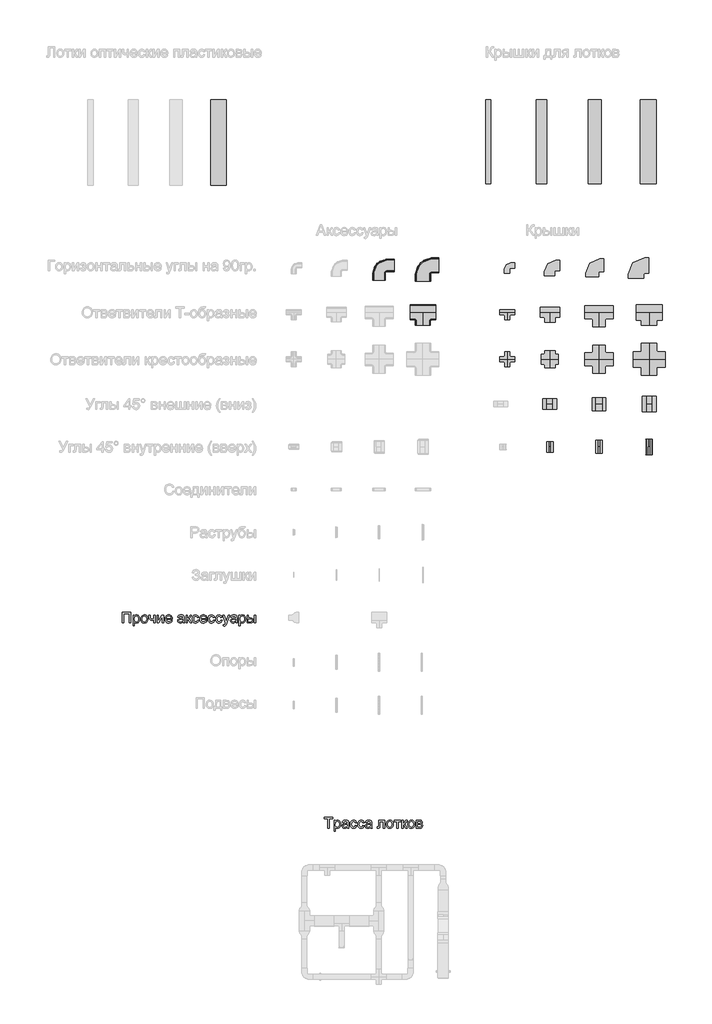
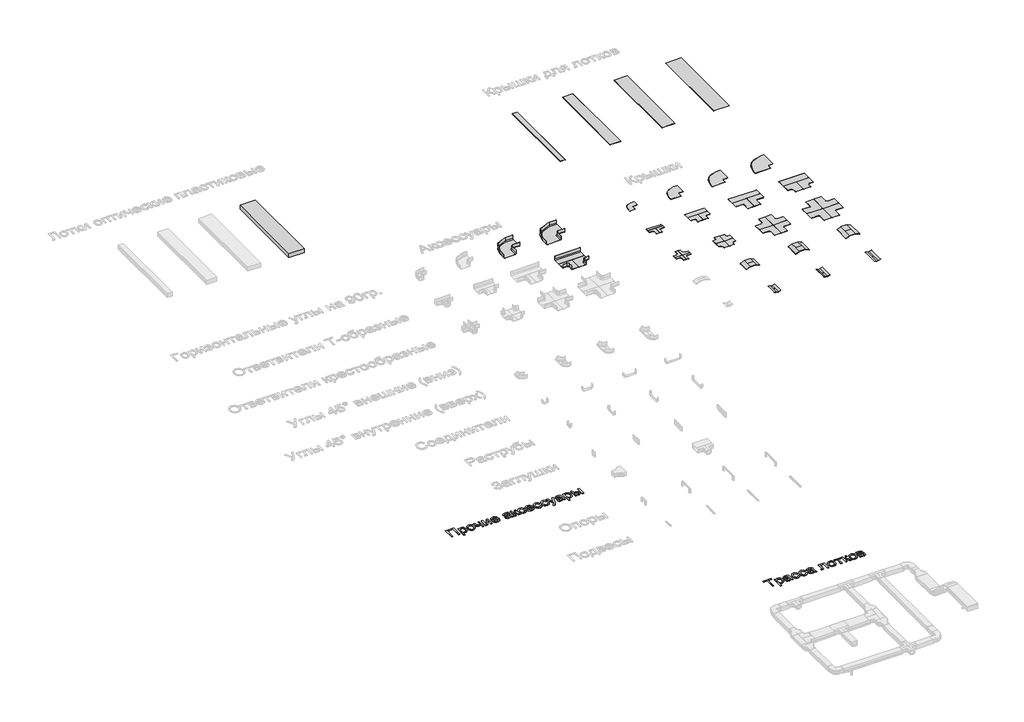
# One storey, part 2 of 11: 25 cable carrier fittings, 2 proxies, 1 cable carrier segment.
"""IFC4 building model written with IfcOpenShell, lengths in millimetres."""

from ifc_helpers import new_model, si_unit, frame, origin, origin_with_axes, place, context, project, spatial, polyline, outline, extrude, transform, mapped, element, save
from components import cable_carrier_fitting_d0117bf3, cable_carrier_fitting_022d71c2, cable_carrier_fitting_a3d14f12, cable_carrier_fitting_c29da355, cable_carrier_fitting_4c80ffbf, cable_carrier_fitting_1af7177d, cable_carrier_fitting_def6d2b1, cable_carrier_fitting_a9126de9, cable_carrier_fitting_f52470ef, cable_carrier_fitting_f0c8af3d, cable_carrier_fitting_d9fc4f65, cable_carrier_fitting_1e9d4b74, cable_carrier_fitting_ac56a8e3, cable_carrier_fitting_10d31a7a, cable_carrier_fitting_df0aac7b, cable_carrier_fitting_3fc549e6, cable_carrier_fitting_cc96bbe7, cable_carrier_fitting_1a4309ed, cable_carrier_fitting_9f67b875, cable_carrier_fitting_865a7457, cable_carrier_fitting_09b9b2bc, cable_carrier_fitting_42ad5d54, cable_carrier_fitting_a8f579ef, cable_carrier_fitting_3d7f2477, cable_carrier_fitting_4f32f718

model = new_model("IFC4")

# Units and contexts
model_context = context("Model", 3, world=origin())
ifc_project = project(units=[si_unit("LENGTHUNIT", "METRE", prefix="MILLI")], contexts=[model_context])

# Site, building, storey
site = spatial("IfcSite", under=ifc_project)
building = spatial("IfcBuilding", under=site)
storey = spatial("IfcBuildingStorey", under=building, Name="Этаж 01", Elevation=0.0)

# Proxies
placement = place(None, origin())
element("IfcBuildingElementProxy", 1, Name="АБН_Маленькая надпись", ObjectType="АБН_Маленькая надпись", at=placement, inside=storey, context=model_context, shape_type="SweptSolid", body=[
    extrude(outline(polyline([(-17729.8891826, -1217.3296674), (-17533.6854518, -1217.3296674), (-17533.6854518, -1468.4704427), (-17565.0780487, -1468.4704427), (-17565.0780487, -1248.7222643), (-17698.4965857, -1248.7222643), (-17698.4965857, -1468.4704427), (-17729.8891826, -1468.4704427), (-17729.8891826, -1217.3296674)])), origin_with_axes(), (0.0, 0.0, 1.0), 5.0),
    extrude(outline(polyline([(-17482.6724818, -1539.1037858), (-17482.6724818, -1284.0389358), (-17451.2798849, -1284.0389358), (-17451.2798849, -1314.8183961), (-17441.0405027, -1299.6355996), (-17429.5748472, -1288.7907449), (-17416.208468, -1282.2838321), (-17400.2669149, -1280.1148612), (-17379.0370581, -1283.1498877), (-17360.4743458, -1292.254967), (-17345.3605271, -1306.8782763), (-17334.4773514, -1326.4679926), (-17327.9014608, -1349.598573), (-17325.7094972, -1374.844475), (-17328.1850365, -1401.6921964), (-17335.6116542, -1425.7041608), (-17347.7517601, -1445.661759), (-17364.3677635, -1460.346382), (-17383.7198893, -1469.3824835), (-17404.0683622, -1472.3945173), (-17418.5000663, -1470.3788306), (-17431.3836003, -1464.3317703), (-17451.2798849, -1443.9449764), (-17451.2798849, -1539.1037858), (-17482.6724818, -1539.1037858)]), holes=[polyline([(-17451.2798849, -1377.7262172), (-17447.8846407, -1405.8691899), (-17437.6989079, -1425.5508766), (-17422.6693956, -1437.1391595), (-17404.7428125, -1441.0019204), (-17386.5249895, -1437.0012037), (-17371.1122668, -1424.9990536), (-17360.6046373, -1404.5969313), (-17357.1020941, -1375.3962979), (-17360.520331, -1347.4066095), (-17370.7750416, -1327.4490112), (-17385.7815613, -1315.4928464), (-17403.4552255, -1311.5074581), (-17421.1978676, -1315.7457653), (-17436.7792029, -1328.4606867), (-17447.6547144, -1349.2536837), (-17451.2798849, -1377.7262172)])]), origin_with_axes(), (0.0, 0.0, 1.0), 5.0),
    extrude(outline(polyline([(-17298.2409749, -1376.2546893), (-17296.5433528, -1352.3691843), (-17291.4504864, -1331.7869531), (-17282.9623758, -1314.5079956), (-17271.0790209, -1300.5323119), (-17245.9097611, -1285.2192239), (-17215.7740943, -1280.1148612), (-17198.4548998, -1281.6687794), (-17182.7950063, -1286.3305341), (-17168.7944139, -1294.1001252), (-17156.4531226, -1304.9775527), (-17146.3804369, -1318.5949347), (-17139.1856615, -1334.5843891), (-17134.8687962, -1352.945916), (-17133.4298411, -1373.6795153), (-17135.9743582, -1405.394009), (-17143.6079096, -1429.5362649), (-17156.1082332, -1447.6161321), (-17173.253067, -1461.1434597), (-17193.6168683, -1469.5817529), (-17215.7740943, -1472.3945173), (-17233.3462077, -1470.8463473), (-17249.1517212, -1466.2018371), (-17263.1906346, -1458.4609868), (-17275.462948, -1447.6237963), (-17285.4283348, -1433.8742068), (-17292.5464682, -1417.3961591), (-17296.8173482, -1398.1896532), (-17298.2409749, -1376.2546893)]), holes=[polyline([(-17266.848378, -1376.1933756), (-17263.2155433, -1404.6045955), (-17252.3170392, -1424.8457695), (-17235.9156336, -1436.9628827), (-17215.7740943, -1441.0019204), (-17195.7245256, -1436.9398901), (-17179.3537768, -1424.753799), (-17168.4552727, -1404.2443777), (-17164.822438, -1375.2123569), (-17168.4782653, -1347.6288715), (-17179.4457473, -1327.6636091), (-17195.8394887, -1315.5464959), (-17215.7740943, -1311.5074581), (-17235.9156336, -1315.5311674), (-17252.3170392, -1327.6022954), (-17263.2155433, -1347.7974841), (-17266.848378, -1376.1933756)])]), origin_with_axes(), (0.0, 0.0, 1.0), 5.0),
    extrude(outline(polyline([(-17109.8853934, -1284.0389358), (-17078.4927965, -1284.0389358), (-17078.4927965, -1319.416921), (-17075.9482793, -1352.5876142), (-17071.6180017, -1362.2291882), (-17063.716203, -1370.5525183), (-17052.8023705, -1376.3006745), (-17039.4359913, -1378.2167266), (-17020.2294855, -1375.840822), (-16996.0872295, -1368.7131084), (-16996.0872295, -1284.0389358), (-16964.6946326, -1284.0389358), (-16964.6946326, -1468.4704427), (-16996.0872295, -1468.4704427), (-16996.0872295, -1398.8181183), (-17022.8813015, -1406.9115222), (-17047.8359635, -1409.6093235), (-17066.8202073, -1406.7965591), (-17083.4285466, -1398.3582658), (-17096.3733943, -1385.8426138), (-17104.3671634, -1370.797773), (-17109.8853934, -1334.9292785), (-17109.8853934, -1284.0389358)])), origin_with_axes(), (0.0, 0.0, 1.0), 5.0),
    extrude(outline(polyline([(-16917.6057372, -1284.0389358), (-16886.2131403, -1284.0389358), (-16886.2131403, -1424.6924853), (-16809.0805487, -1284.0389358), (-16768.4909019, -1284.0389358), (-16768.4909019, -1468.4704427), (-16799.8834988, -1468.4704427), (-16799.8834988, -1328.6752846), (-16876.5255811, -1468.4704427), (-16917.6057372, -1468.4704427), (-16917.6057372, -1284.0389358)])), origin_with_axes(), (0.0, 0.0, 1.0), 5.0),
    extrude(outline(polyline([(-16592.2754262, -1413.5333981), (-16561.4959659, -1417.4574727), (-16572.5860752, -1440.6493668), (-16590.282732, -1457.9858059), (-16614.1873975, -1468.7923395), (-16643.9015328, -1472.3945173), (-16663.380118, -1470.8405991), (-16680.7357176, -1466.1788445), (-16695.9683314, -1458.4092534), (-16709.0779596, -1447.5318258), (-16719.6200781, -1433.8492981), (-16727.1501626, -1417.6644063), (-16731.6682134, -1398.9771506), (-16733.1742303, -1377.7875309), (-16731.652885, -1355.8793917), (-16727.088849, -1336.569419), (-16719.4821223, -1319.857613), (-16708.832705, -1305.7439735), (-16695.7575657, -1294.5312369), (-16680.8736733, -1286.5221393), (-16664.1810278, -1281.7166807), (-16645.6796291, -1280.1148612), (-16627.7741226, -1281.7128486), (-16611.5815667, -1286.5068109), (-16597.1019613, -1294.4967479), (-16584.3353064, -1305.6826599), (-16573.9138993, -1319.7656425), (-16566.470037, -1336.4467917), (-16562.0037197, -1355.7261075), (-16560.5149472, -1377.6035899), (-16560.6988882, -1386.0648758), (-16701.7816334, -1386.0648758), (-16696.3477098, -1409.5633382), (-16683.7247588, -1426.8384636), (-16665.5069358, -1437.4610562), (-16643.2883962, -1441.0019204), (-16626.5804222, -1439.3617799), (-16612.5089359, -1434.4413582), (-16601.0739372, -1425.934087), (-16592.2754262, -1413.5333981)]), holes=[polyline([(-16701.7816334, -1354.6722789), (-16591.9075442, -1354.6722789), (-16596.1535155, -1338.0869323), (-16604.4768457, -1326.2227379), (-16622.7789749, -1315.1862781), (-16645.8022565, -1311.5074581), (-16666.9631354, -1314.4428499), (-16684.4605228, -1323.2490251), (-16696.6236213, -1336.9756221), (-16701.7816334, -1354.6722789)])]), origin_with_axes(), (0.0, 0.0, 1.0), 5.0),
    extrude(outline(polyline([(-16313.2982465, -1444.925995), (-16328.297102, -1457.7865364), (-16343.7404816, -1466.2018371), (-16359.9809388, -1470.8463473), (-16377.3710273, -1472.3945173), (-16403.6056121, -1468.6697121), (-16422.9577379, -1457.4952965), (-16434.8909101, -1440.5267395), (-16438.8686342, -1419.41951), (-16437.3664494, -1406.4056845), (-16432.8598949, -1394.5874754), (-16417.071626, -1376.5612576), (-16395.0906767, -1366.2605617), (-16367.9287228, -1361.5394095), (-16313.4821875, -1350.7482043), (-16313.2982465, -1343.7584464), (-16315.4595532, -1329.7482737), (-16321.9434734, -1320.5818807), (-16336.4441553, -1313.7760638), (-16356.6470083, -1311.5074581), (-16375.3476763, -1313.0173071), (-16388.4074872, -1317.5468542), (-16397.3132971, -1325.9238338), (-16403.5519626, -1338.9759804), (-16434.9445596, -1335.0519058), (-16429.4953075, -1317.8840794), (-16421.3635826, -1304.3950729), (-16409.7906281, -1294.0790486), (-16394.0176876, -1286.4301688), (-16374.7268755, -1281.6936881), (-16352.6003063, -1280.1148612), (-16331.3781137, -1281.5097471), (-16314.5551766, -1285.6944048), (-16301.870912, -1291.9867197), (-16293.0647368, -1299.7045774), (-16283.4384912, -1321.0110763), (-16281.9056496, -1348.4795986), (-16281.9056496, -1387.5364038), (-16280.3114943, -1442.0749096), (-16274.0575003, -1468.4704427), (-16305.4500973, -1468.4704427), (-16313.2982465, -1444.925995)]), holes=[polyline([(-16313.2982465, -1382.1408012), (-16363.9433345, -1391.7670467), (-16390.9520043, -1396.856081), (-16403.1840806, -1405.1334259), (-16407.4760373, -1417.2122181), (-16405.1384537, -1426.5472237), (-16398.1257032, -1434.1961035), (-16386.5910698, -1439.3004662), (-16370.6878377, -1441.0019204), (-16353.8265796, -1439.1241894), (-16338.9273588, -1433.4909964), (-16326.8485666, -1425.1906588), (-16318.4485944, -1415.3114944), (-16314.7237892, -1405.1334259), (-16313.4821875, -1391.0312827), (-16313.2982465, -1382.1408012)])]), origin_with_axes(), (0.0, 0.0, 1.0), 5.0),
    extrude(outline(polyline([(-16238.7408288, -1284.0389358), (-16207.3482319, -1284.0389358), (-16207.3482319, -1362.5204281), (-16194.579661, -1361.1102138), (-16186.3176445, -1356.8795709), (-16169.0885044, -1324.015446), (-16154.7717634, -1295.6578755), (-16142.1411482, -1286.4301688), (-16119.1791804, -1284.0389358), (-16113.1704411, -1284.0389358), (-16113.1704411, -1315.6154737), (-16121.631727, -1315.4315327), (-16136.9601435, -1318.7424707), (-16147.7513487, -1339.4051761), (-16160.4126207, -1361.7540073), (-16178.1629269, -1372.6984966), (-16158.3586129, -1384.9152446), (-16138.9221808, -1410.6516558), (-16105.3222919, -1468.4704427), (-16141.0068454, -1468.4704427), (-16173.932284, -1411.8779291), (-16190.4869738, -1387.9349426), (-16198.2278241, -1383.5893365), (-16207.3482319, -1382.1408012), (-16207.3482319, -1468.4704427), (-16238.7408288, -1468.4704427), (-16238.7408288, -1284.0389358)])), origin_with_axes(), (0.0, 0.0, 1.0), 5.0),
    extrude(outline(polyline([(-15967.9796803, -1401.7611743), (-15936.5870834, -1405.6852489), (-15945.3396092, -1433.6059595), (-15961.7870001, -1454.7055247), (-15984.381086, -1467.9722692), (-16011.5736968, -1472.3945173), (-16029.1802991, -1470.8520954), (-16044.966652, -1466.2248297), (-16058.9327555, -1458.5127202), (-16071.0786095, -1447.7157668), (-16080.9098726, -1434.0370712), (-16087.9322034, -1417.6797348), (-16093.550068, -1376.9291396), (-16091.1511709, -1348.9931006), (-16083.9544793, -1324.7818668), (-16071.8450303, -1305.2304716), (-16054.7078607, -1291.2739484), (-16034.2061037, -1282.904633), (-16012.0028924, -1280.1148612), (-15985.4770677, -1283.9469653), (-15964.2702036, -1295.4432777), (-15949.0567502, -1313.9906616), (-15940.511158, -1338.9759804), (-15971.903755, -1342.900055), (-15977.5982617, -1329.2041149), (-15986.4657506, -1319.3862642), (-15998.0157124, -1313.4771596), (-16011.7576378, -1311.5074581), (-16032.044797, -1315.3855475), (-16048.1472985, -1327.0198156), (-16058.654928, -1347.0387275), (-16062.1574711, -1376.0707483), (-16058.73157, -1405.4936437), (-16048.4538668, -1425.5815335), (-16032.6426052, -1437.1468237), (-16012.6160291, -1441.0019204), (-15996.3602434, -1438.595359), (-15983.0321853, -1431.3756749), (-15973.3369619, -1419.158927), (-15967.9796803, -1401.7611743)])), origin_with_axes(), (0.0, 0.0, 1.0), 5.0),
    extrude(outline(polyline([(-15779.9919808, -1413.5333981), (-15749.2125205, -1417.4574727), (-15760.3026299, -1440.6493668), (-15777.9992867, -1457.9858059), (-15801.9039521, -1468.7923395), (-15831.6180875, -1472.3945173), (-15851.0966727, -1470.8405991), (-15868.4522722, -1466.1788445), (-15883.6848861, -1458.4092534), (-15896.7945143, -1447.5318258), (-15907.3366327, -1433.8492981), (-15914.8667173, -1417.6644063), (-15919.384768, -1398.9771506), (-15920.890785, -1377.7875309), (-15919.3694396, -1355.8793917), (-15914.8054036, -1336.569419), (-15907.198677, -1319.857613), (-15896.5492596, -1305.7439735), (-15883.4741204, -1294.5312369), (-15868.590228, -1286.5221393), (-15851.8975825, -1281.7166807), (-15833.3961838, -1280.1148612), (-15815.4906773, -1281.7128486), (-15799.2981214, -1286.5068109), (-15784.8185159, -1294.4967479), (-15772.0518611, -1305.6826599), (-15761.6304539, -1319.7656425), (-15754.1865917, -1336.4467917), (-15749.7202743, -1355.7261075), (-15748.2315019, -1377.6035899), (-15748.4154429, -1386.0648758), (-15889.498188, -1386.0648758), (-15884.0642644, -1409.5633382), (-15871.4413134, -1426.8384636), (-15853.2234905, -1437.4610562), (-15831.0049508, -1441.0019204), (-15814.2969769, -1439.3617799), (-15800.2254905, -1434.4413582), (-15788.7904919, -1425.934087), (-15779.9919808, -1413.5333981)]), holes=[polyline([(-15889.498188, -1354.6722789), (-15779.6240988, -1354.6722789), (-15783.8700702, -1338.0869323), (-15792.1934003, -1326.2227379), (-15810.4955296, -1315.1862781), (-15833.5188111, -1311.5074581), (-15854.67969, -1314.4428499), (-15872.1770774, -1323.2490251), (-15884.3401759, -1336.9756221), (-15889.498188, -1354.6722789)])]), origin_with_axes(), (0.0, 0.0, 1.0), 5.0),
    extrude(outline(polyline([(-15599.1166665, -1401.7611743), (-15567.7240696, -1405.6852489), (-15576.4765954, -1433.6059595), (-15592.9239863, -1454.7055247), (-15615.5180721, -1467.9722692), (-15642.7106829, -1472.3945173), (-15660.3172853, -1470.8520954), (-15676.1036382, -1466.2248297), (-15690.0697417, -1458.5127202), (-15702.2155957, -1447.7157668), (-15712.0468588, -1434.0370712), (-15719.0691896, -1417.6797348), (-15724.6870542, -1376.9291396), (-15722.288157, -1348.9931006), (-15715.0914655, -1324.7818668), (-15702.9820165, -1305.2304716), (-15685.8448469, -1291.2739484), (-15665.3430899, -1282.904633), (-15643.1398786, -1280.1148612), (-15616.6140539, -1283.9469653), (-15595.4071897, -1295.4432777), (-15580.1937364, -1313.9906616), (-15571.6481442, -1338.9759804), (-15603.0407411, -1342.900055), (-15608.7352478, -1329.2041149), (-15617.6027368, -1319.3862642), (-15629.1526986, -1313.4771596), (-15642.8946239, -1311.5074581), (-15663.1817831, -1315.3855475), (-15679.2842846, -1327.0198156), (-15689.7919141, -1347.0387275), (-15693.2944573, -1376.0707483), (-15689.8685562, -1405.4936437), (-15679.590853, -1425.5815335), (-15663.7795914, -1437.1468237), (-15643.7530153, -1441.0019204), (-15627.4972296, -1438.595359), (-15614.1691715, -1431.3756749), (-15604.4739481, -1419.158927), (-15599.1166665, -1401.7611743)])), origin_with_axes(), (0.0, 0.0, 1.0), 5.0),
    extrude(outline(polyline([(-15422.5333088, -1401.7611743), (-15391.1407119, -1405.6852489), (-15399.8932377, -1433.6059595), (-15416.3406286, -1454.7055247), (-15438.9347145, -1467.9722692), (-15466.1273253, -1472.3945173), (-15483.7339276, -1470.8520954), (-15499.5202805, -1466.2248297), (-15513.486384, -1458.5127202), (-15525.632238, -1447.7157668), (-15535.4635011, -1434.0370712), (-15542.4858319, -1417.6797348), (-15548.1036965, -1376.9291396), (-15545.7047993, -1348.9931006), (-15538.5081078, -1324.7818668), (-15526.3986588, -1305.2304716), (-15509.2614892, -1291.2739484), (-15488.7597322, -1282.904633), (-15466.5565209, -1280.1148612), (-15440.0306962, -1283.9469653), (-15418.823832, -1295.4432777), (-15403.6103787, -1313.9906616), (-15395.0647865, -1338.9759804), (-15426.4573834, -1342.900055), (-15432.1518902, -1329.2041149), (-15441.0193791, -1319.3862642), (-15452.5693409, -1313.4771596), (-15466.3112663, -1311.5074581), (-15486.5984255, -1315.3855475), (-15502.7009269, -1327.0198156), (-15513.2085564, -1347.0387275), (-15516.7110996, -1376.0707483), (-15513.2851985, -1405.4936437), (-15503.0074953, -1425.5815335), (-15487.1962337, -1437.1468237), (-15467.1696576, -1441.0019204), (-15450.9138719, -1438.595359), (-15437.5858138, -1431.3756749), (-15427.8905904, -1419.158927), (-15422.5333088, -1401.7611743)])), origin_with_axes(), (0.0, 0.0, 1.0), 5.0),
    extrude(outline(polyline([(-15363.6721896, -1539.1037858), (-15367.5962642, -1508.8761485), (-15351.6547111, -1511.6352635), (-15336.7554903, -1508.1710414), (-15327.6197541, -1498.514139), (-15319.0358409, -1475.398887), (-15316.5832942, -1467.7959924), (-15383.2925627, -1284.0389358), (-15350.1831831, -1284.0389358), (-15314.8051979, -1386.4327578), (-15302.4811511, -1427.3902866), (-15290.1571042, -1391.2152237), (-15253.7981004, -1284.0389358), (-15220.9339755, -1284.0389358), (-15285.1293836, -1472.8850267), (-15301.8067007, -1513.8425555), (-15310.3446287, -1526.9176947), (-15320.0168595, -1535.9767888), (-15331.2525888, -1541.2650925), (-15344.4810122, -1543.0278604), (-15363.6721896, -1539.1037858)])), origin_with_axes(), (0.0, 0.0, 1.0), 5.0),
    extrude(outline(polyline([(-15077.2147427, -1444.925995), (-15092.2135982, -1457.7865364), (-15107.6569778, -1466.2018371), (-15123.897435, -1470.8463473), (-15141.2875235, -1472.3945173), (-15167.5221083, -1468.6697121), (-15186.8742341, -1457.4952965), (-15198.8074063, -1440.5267395), (-15202.7851304, -1419.41951), (-15201.2829456, -1406.4056845), (-15196.7763911, -1394.5874754), (-15180.9881222, -1376.5612576), (-15159.007173, -1366.2605617), (-15131.845219, -1361.5394095), (-15077.3986837, -1350.7482043), (-15077.2147427, -1343.7584464), (-15079.3760494, -1329.7482737), (-15085.8599696, -1320.5818807), (-15100.3606516, -1313.7760638), (-15120.5635045, -1311.5074581), (-15139.2641725, -1313.0173071), (-15152.3239834, -1317.5468542), (-15161.2297933, -1325.9238338), (-15167.4684588, -1338.9759804), (-15198.8610558, -1335.0519058), (-15193.4118037, -1317.8840794), (-15185.2800788, -1304.3950729), (-15173.7071243, -1294.0790486), (-15157.9341838, -1286.4301688), (-15138.6433717, -1281.6936881), (-15116.5168025, -1280.1148612), (-15095.2946099, -1281.5097471), (-15078.4716728, -1285.6944048), (-15065.7874082, -1291.9867197), (-15056.981233, -1299.7045774), (-15047.3549874, -1321.0110763), (-15045.8221458, -1348.4795986), (-15045.8221458, -1387.5364038), (-15044.2279905, -1442.0749096), (-15037.9739965, -1468.4704427), (-15069.3665935, -1468.4704427), (-15077.2147427, -1444.925995)]), holes=[polyline([(-15077.2147427, -1382.1408012), (-15127.8598307, -1391.7670467), (-15154.8685005, -1396.856081), (-15167.1005768, -1405.1334259), (-15171.3925335, -1417.2122181), (-15169.0549499, -1426.5472237), (-15162.0421994, -1434.1961035), (-15150.507566, -1439.3004662), (-15134.6043339, -1441.0019204), (-15117.7430758, -1439.1241894), (-15102.843855, -1433.4909964), (-15090.7650628, -1425.1906588), (-15082.3650906, -1415.3114944), (-15078.6402854, -1405.1334259), (-15077.3986837, -1391.0312827), (-15077.2147427, -1382.1408012)])]), origin_with_axes(), (0.0, 0.0, 1.0), 5.0),
    extrude(outline(polyline([(-15002.657325, -1539.1037858), (-15002.657325, -1284.0389358), (-14971.2647281, -1284.0389358), (-14971.2647281, -1314.8183961), (-14961.0253459, -1299.6355996), (-14949.5596904, -1288.7907449), (-14936.1933112, -1282.2838321), (-14920.2517581, -1280.1148612), (-14899.0219013, -1283.1498877), (-14880.4591889, -1292.254967), (-14865.3453703, -1306.8782763), (-14854.4621946, -1326.4679926), (-14847.8863039, -1349.598573), (-14845.6943404, -1374.844475), (-14848.1698797, -1401.6921964), (-14855.5964974, -1425.7041608), (-14867.7366033, -1445.661759), (-14884.3526067, -1460.346382), (-14903.7047325, -1469.3824835), (-14924.0532054, -1472.3945173), (-14938.4849095, -1470.3788306), (-14951.3684435, -1464.3317703), (-14971.2647281, -1443.9449764), (-14971.2647281, -1539.1037858), (-15002.657325, -1539.1037858)]), holes=[polyline([(-14971.2647281, -1377.7262172), (-14967.8694838, -1405.8691899), (-14957.6837511, -1425.5508766), (-14942.6542387, -1437.1391595), (-14924.7276557, -1441.0019204), (-14906.5098327, -1437.0012037), (-14891.09711, -1424.9990536), (-14880.5894805, -1404.5969313), (-14877.0869373, -1375.3962979), (-14880.5051742, -1347.4066095), (-14890.7598848, -1327.4490112), (-14905.7664045, -1315.4928464), (-14923.4400687, -1311.5074581), (-14941.1827108, -1315.7457653), (-14956.7640461, -1328.4606867), (-14967.6395576, -1349.2536837), (-14971.2647281, -1377.7262172)])]), origin_with_axes(), (0.0, 0.0, 1.0), 5.0),
    extrude(outline(polyline([(-14637.7183858, -1284.0389358), (-14606.3257889, -1284.0389358), (-14606.3257889, -1468.4704427), (-14637.7183858, -1468.4704427), (-14637.7183858, -1284.0389358)])), origin_with_axes(), (0.0, 0.0, 1.0), 5.0),
    extrude(outline(polyline([(-14810.3776689, -1284.0389358), (-14778.9850719, -1284.0389358), (-14778.9850719, -1350.7482043), (-14740.1735214, -1350.7482043), (-14706.627282, -1354.6799431), (-14681.7722547, -1366.4751596), (-14666.3901888, -1385.1834919), (-14661.2628335, -1409.8545782), (-14665.5624543, -1432.3183725), (-14678.4613168, -1451.2719595), (-14700.8024838, -1464.1708219), (-14733.4290182, -1468.4704427), (-14810.3776689, -1468.4704427), (-14810.3776689, -1284.0389358)]), holes=[polyline([(-14778.9850719, -1437.0778458), (-14746.7340837, -1437.0778458), (-14721.7334364, -1435.430041), (-14705.1021046, -1430.4866267), (-14695.7670989, -1422.0483335), (-14692.6554304, -1409.9158918), (-14694.9623571, -1399.6611812), (-14701.8831371, -1390.6020871), (-14716.6827232, -1384.2561227), (-14742.6260681, -1382.1408012), (-14778.9850719, -1382.1408012), (-14778.9850719, -1437.0778458)])]), origin_with_axes(), (0.0, 0.0, 1.0), 5.0),
])
element("IfcBuildingElementProxy", 2, Name="АБН_Маленькая надпись", ObjectType="АБН_Маленькая надпись", at=placement, inside=storey, context=model_context, shape_type="SweptSolid", body=[
    extrude(outline(polyline([(-12919.9195003, -6276.2110904), (-12919.9195003, -6056.462912), (-13002.3250672, -6056.462912), (-13002.3250672, -6025.0703151), (-12806.1213364, -6025.0703151), (-12806.1213364, -6056.462912), (-12888.5269034, -6056.462912), (-12888.5269034, -6276.2110904), (-12919.9195003, -6276.2110904)])), origin_with_axes(), (0.0, 0.0, 1.0), 5.0),
    extrude(outline(polyline([(-12774.7287395, -6346.8444335), (-12774.7287395, -6091.7795835), (-12743.3361426, -6091.7795835), (-12743.3361426, -6122.5590438), (-12733.0967604, -6107.3762473), (-12721.6311049, -6096.5313926), (-12708.2647257, -6090.0244798), (-12692.3231726, -6087.8555089), (-12671.0933158, -6090.8905354), (-12652.5306034, -6099.9956147), (-12637.4167848, -6114.6189241), (-12626.5336091, -6134.2086403), (-12619.9577185, -6157.3392207), (-12617.7657549, -6182.5851227), (-12620.2412942, -6209.4328441), (-12627.6679119, -6233.4448085), (-12639.8080178, -6253.4024067), (-12656.4240212, -6268.0870297), (-12675.776147, -6277.1231312), (-12696.1246199, -6280.1351651), (-12710.556324, -6278.1194783), (-12723.439858, -6272.072418), (-12743.3361426, -6251.6856241), (-12743.3361426, -6346.8444335), (-12774.7287395, -6346.8444335)]), holes=[polyline([(-12743.3361426, -6185.466865), (-12739.9408983, -6213.6098376), (-12729.7551656, -6233.2915243), (-12714.7256533, -6244.8798072), (-12696.7990702, -6248.7425681), (-12678.5812472, -6244.7418514), (-12663.1685245, -6232.7397013), (-12652.660895, -6212.337579), (-12649.1583518, -6183.1369457), (-12652.5765887, -6155.1472572), (-12662.8312993, -6135.189659), (-12677.837819, -6123.2334941), (-12695.5114832, -6119.2481058), (-12713.2541253, -6123.486413), (-12728.8354606, -6136.2013344), (-12739.7109721, -6156.9943314), (-12743.3361426, -6185.466865)])]), origin_with_axes(), (0.0, 0.0, 1.0), 5.0),
    extrude(outline(polyline([(-12464.7268449, -6252.6666427), (-12479.7257004, -6265.5271842), (-12495.16908, -6273.9424848), (-12511.4095373, -6278.586995), (-12528.7996257, -6280.1351651), (-12555.0342105, -6276.4103599), (-12574.3863363, -6265.2359442), (-12586.3195085, -6248.2673872), (-12590.2972326, -6227.1601577), (-12588.7950478, -6214.1463322), (-12584.2884933, -6202.3281231), (-12568.5002244, -6184.3019053), (-12546.5192752, -6174.0012094), (-12519.3573212, -6169.2800572), (-12464.9107859, -6158.488852), (-12464.7268449, -6151.4990941), (-12466.8881516, -6137.4889214), (-12473.3720718, -6128.3225284), (-12487.8727538, -6121.5167115), (-12508.0756067, -6119.2481058), (-12526.7762748, -6120.7579548), (-12539.8360856, -6125.2875019), (-12548.7418956, -6133.6644815), (-12554.9805611, -6146.7166281), (-12586.373158, -6142.7925535), (-12580.9239059, -6125.6247271), (-12572.792181, -6112.1357206), (-12561.2192266, -6101.8196963), (-12545.446286, -6094.1708165), (-12526.1554739, -6089.4343358), (-12504.0289047, -6087.8555089), (-12482.8067121, -6089.2503948), (-12465.9837751, -6093.4350525), (-12453.2995104, -6099.7273675), (-12444.4933352, -6107.4452251), (-12434.8670896, -6128.751724), (-12433.334248, -6156.2202463), (-12433.334248, -6195.2770515), (-12431.7400927, -6249.8155573), (-12425.4860988, -6276.2110904), (-12456.8786957, -6276.2110904), (-12464.7268449, -6252.6666427)]), holes=[polyline([(-12464.7268449, -6189.8814489), (-12515.3719329, -6199.5076944), (-12542.3806027, -6204.5967287), (-12554.6126791, -6212.8740736), (-12558.9046357, -6224.9528658), (-12556.5670522, -6234.2878714), (-12549.5543016, -6241.9367512), (-12538.0196682, -6247.0411139), (-12522.1164362, -6248.7425681), (-12505.255178, -6246.8648371), (-12490.3559572, -6241.2316441), (-12478.2771651, -6232.9313065), (-12469.8771928, -6223.0521421), (-12466.1523876, -6212.8740736), (-12464.9107859, -6198.7719305), (-12464.7268449, -6189.8814489)])]), origin_with_axes(), (0.0, 0.0, 1.0), 5.0),
    extrude(outline(polyline([(-12272.4471888, -6209.501822), (-12241.0545918, -6213.4258966), (-12249.8071176, -6241.3466072), (-12266.2545085, -6262.4461725), (-12288.8485944, -6275.7129169), (-12316.0412052, -6280.1351651), (-12333.6478076, -6278.5927431), (-12349.4341605, -6273.9654774), (-12363.4002639, -6266.2533679), (-12375.5461179, -6255.4564145), (-12385.377381, -6241.7777189), (-12392.3997118, -6225.4203825), (-12398.0175764, -6184.6697873), (-12395.6186793, -6156.7337483), (-12388.4219877, -6132.5225145), (-12376.3125387, -6112.9711193), (-12359.1753691, -6099.0145961), (-12338.6736121, -6090.6452807), (-12316.4704009, -6087.8555089), (-12289.9445762, -6091.687613), (-12268.737712, -6103.1839254), (-12253.5242586, -6121.7313093), (-12244.9786665, -6146.7166281), (-12276.3712634, -6150.6407027), (-12282.0657701, -6136.9447626), (-12290.933259, -6127.1269119), (-12302.4832208, -6121.2178073), (-12316.2251462, -6119.2481058), (-12336.5123054, -6123.1261952), (-12352.6148069, -6134.7604633), (-12363.1224364, -6154.7793752), (-12366.6249795, -6183.811396), (-12363.1990784, -6213.2342914), (-12352.9213752, -6233.3221812), (-12337.1101136, -6244.8874714), (-12317.0835375, -6248.7425681), (-12300.8277518, -6246.3360067), (-12287.4996937, -6239.1163226), (-12277.8044703, -6226.8995747), (-12272.4471888, -6209.501822)])), origin_with_axes(), (0.0, 0.0, 1.0), 5.0),
    extrude(outline(polyline([(-12095.8638311, -6209.501822), (-12064.4712342, -6213.4258966), (-12073.22376, -6241.3466072), (-12089.6711508, -6262.4461725), (-12112.2652367, -6275.7129169), (-12139.4578475, -6280.1351651), (-12157.0644499, -6278.5927431), (-12172.8508028, -6273.9654774), (-12186.8169062, -6266.2533679), (-12198.9627602, -6255.4564145), (-12208.7940233, -6241.7777189), (-12215.8163541, -6225.4203825), (-12221.4342188, -6184.6697873), (-12219.0353216, -6156.7337483), (-12211.8386301, -6132.5225145), (-12199.729181, -6112.9711193), (-12182.5920114, -6099.0145961), (-12162.0902544, -6090.6452807), (-12139.8870432, -6087.8555089), (-12113.3612185, -6091.687613), (-12092.1543543, -6103.1839254), (-12076.940901, -6121.7313093), (-12068.3953088, -6146.7166281), (-12099.7879057, -6150.6407027), (-12105.4824124, -6136.9447626), (-12114.3499013, -6127.1269119), (-12125.8998631, -6121.2178073), (-12139.6417885, -6119.2481058), (-12159.9289477, -6123.1261952), (-12176.0314492, -6134.7604633), (-12186.5390787, -6154.7793752), (-12190.0416218, -6183.811396), (-12186.6157208, -6213.2342914), (-12176.3380175, -6233.3221812), (-12160.5267559, -6244.8874714), (-12140.5001798, -6248.7425681), (-12124.2443942, -6246.3360067), (-12110.916336, -6239.1163226), (-12101.2211126, -6226.8995747), (-12095.8638311, -6209.501822)])), origin_with_axes(), (0.0, 0.0, 1.0), 5.0),
    extrude(outline(polyline([(-11919.2804734, -6252.6666427), (-11934.2793289, -6265.5271842), (-11949.7227085, -6273.9424848), (-11965.9631657, -6278.586995), (-11983.3532542, -6280.1351651), (-12009.587839, -6276.4103599), (-12028.9399648, -6265.2359442), (-12040.873137, -6248.2673872), (-12044.8508611, -6227.1601577), (-12043.3486763, -6214.1463322), (-12038.8421218, -6202.3281231), (-12023.0538529, -6184.3019053), (-12001.0729037, -6174.0012094), (-11973.9109497, -6169.2800572), (-11919.4644144, -6158.488852), (-11919.2804734, -6151.4990941), (-11921.4417801, -6137.4889214), (-11927.9257003, -6128.3225284), (-11942.4263823, -6121.5167115), (-11962.6292352, -6119.2481058), (-11981.3299032, -6120.7579548), (-11994.3897141, -6125.2875019), (-12003.295524, -6133.6644815), (-12009.5341895, -6146.7166281), (-12040.9267865, -6142.7925535), (-12035.4775344, -6125.6247271), (-12027.3458095, -6112.1357206), (-12015.772855, -6101.8196963), (-11999.9999145, -6094.1708165), (-11980.7091024, -6089.4343358), (-11958.5825332, -6087.8555089), (-11937.3603406, -6089.2503948), (-11920.5374035, -6093.4350525), (-11907.8531389, -6099.7273675), (-11899.0469637, -6107.4452251), (-11889.4207181, -6128.751724), (-11887.8878765, -6156.2202463), (-11887.8878765, -6195.2770515), (-11886.2937212, -6249.8155573), (-11880.0397272, -6276.2110904), (-11911.4323242, -6276.2110904), (-11919.2804734, -6252.6666427)]), holes=[polyline([(-11919.2804734, -6189.8814489), (-11969.9255614, -6199.5076944), (-11996.9342312, -6204.5967287), (-12009.1663075, -6212.8740736), (-12013.4582642, -6224.9528658), (-12011.1206806, -6234.2878714), (-12004.1079301, -6241.9367512), (-11992.5732967, -6247.0411139), (-11976.6700646, -6248.7425681), (-11959.8088065, -6246.8648371), (-11944.9095857, -6241.2316441), (-11932.8307935, -6232.9313065), (-11924.4308213, -6223.0521421), (-11920.7060161, -6212.8740736), (-11919.4644144, -6198.7719305), (-11919.2804734, -6189.8814489)])]), origin_with_axes(), (0.0, 0.0, 1.0), 5.0),
    extrude(outline(polyline([(-11730.9248919, -6091.7795835), (-11589.6582057, -6091.7795835), (-11589.6582057, -6276.0271494), (-11621.0508026, -6276.0271494), (-11621.0508026, -6123.1721804), (-11699.5322949, -6123.1721804), (-11699.5322949, -6211.157291), (-11701.6476164, -6251.7469378), (-11705.6100121, -6260.9363234), (-11713.2665561, -6268.8841074), (-11724.8854958, -6274.3793447), (-11740.7350784, -6276.2110904), (-11766.2415634, -6274.6169351), (-11766.2415634, -6244.8184935), (-11752.2007339, -6244.8184935), (-11738.0066203, -6242.887113), (-11732.3351062, -6236.7557465), (-11730.9248919, -6209.3791946), (-11730.9248919, -6091.7795835)])), origin_with_axes(), (0.0, 0.0, 1.0), 5.0),
    extrude(outline(polyline([(-11550.4174596, -6183.995337), (-11548.7198374, -6160.109832), (-11543.6269711, -6139.5276008), (-11535.1388604, -6122.2486434), (-11523.2555056, -6108.2729596), (-11498.0862457, -6092.9598716), (-11467.950579, -6087.8555089), (-11450.6313844, -6089.4094271), (-11434.971491, -6094.0711818), (-11420.9708986, -6101.8407729), (-11408.6296073, -6112.7182004), (-11398.5569216, -6126.3355824), (-11391.3621461, -6142.3250368), (-11387.0452808, -6160.6865637), (-11385.6063257, -6181.420163), (-11388.1508429, -6213.1346567), (-11395.7843943, -6237.2769126), (-11408.2847179, -6255.3567798), (-11425.4295517, -6268.8841074), (-11445.793353, -6277.3224006), (-11467.950579, -6280.1351651), (-11485.5226924, -6278.586995), (-11501.3282058, -6273.9424848), (-11515.3671193, -6266.2016345), (-11527.6394327, -6255.364444), (-11537.6048194, -6241.6148545), (-11544.7229528, -6225.1368068), (-11548.9938329, -6205.9303009), (-11550.4174596, -6183.995337)]), holes=[polyline([(-11519.0248626, -6183.9340233), (-11515.3920279, -6212.3452432), (-11504.4935238, -6232.5864172), (-11488.0921182, -6244.7035304), (-11467.950579, -6248.7425681), (-11447.9010102, -6244.6805378), (-11431.5302615, -6232.4944467), (-11420.6317573, -6211.9850254), (-11416.9989226, -6182.9530047), (-11420.65475, -6155.3695192), (-11431.622232, -6135.4042568), (-11448.0159734, -6123.2871436), (-11467.950579, -6119.2481058), (-11488.0921182, -6123.2718151), (-11504.4935238, -6135.3429431), (-11515.3920279, -6155.5381318), (-11519.0248626, -6183.9340233)])]), origin_with_axes(), (0.0, 0.0, 1.0), 5.0),
    extrude(outline(polyline([(-11365.9859526, -6091.7795835), (-11216.8711173, -6091.7795835), (-11216.8711173, -6123.1721804), (-11275.7322365, -6123.1721804), (-11275.7322365, -6276.2110904), (-11307.1248334, -6276.2110904), (-11307.1248334, -6123.1721804), (-11365.9859526, -6123.1721804), (-11365.9859526, -6091.7795835)])), origin_with_axes(), (0.0, 0.0, 1.0), 5.0),
    extrude(outline(polyline([(-11189.402595, -6091.7795835), (-11158.009998, -6091.7795835), (-11158.009998, -6170.2610758), (-11145.2414271, -6168.8508615), (-11136.9794106, -6164.6202186), (-11119.7502705, -6131.7560937), (-11105.4335296, -6103.3985232), (-11092.8029144, -6094.1708165), (-11069.8409465, -6091.7795835), (-11063.8322073, -6091.7795835), (-11063.8322073, -6123.3561214), (-11072.2934932, -6123.1721804), (-11087.6219096, -6126.4831184), (-11098.4131148, -6147.1458238), (-11111.0743868, -6169.494655), (-11128.8246931, -6180.4391444), (-11109.020379, -6192.6558923), (-11089.5839469, -6218.3923035), (-11055.984058, -6276.2110904), (-11091.6686116, -6276.2110904), (-11124.5940501, -6219.6185768), (-11141.1487399, -6195.6755903), (-11148.8895902, -6191.3299843), (-11158.009998, -6189.8814489), (-11158.009998, -6276.2110904), (-11189.402595, -6276.2110904), (-11189.402595, -6091.7795835)])), origin_with_axes(), (0.0, 0.0, 1.0), 5.0),
    extrude(outline(polyline([(-11044.2118342, -6183.995337), (-11042.5142121, -6160.109832), (-11037.4213457, -6139.5276008), (-11028.9332351, -6122.2486434), (-11017.0498802, -6108.2729596), (-10991.8806204, -6092.9598716), (-10961.7449536, -6087.8555089), (-10944.4257591, -6089.4094271), (-10928.7658656, -6094.0711818), (-10914.7652732, -6101.8407729), (-10902.4239819, -6112.7182004), (-10892.3512962, -6126.3355824), (-10885.1565207, -6142.3250368), (-10880.8396555, -6160.6865637), (-10879.4007004, -6181.420163), (-10881.9452175, -6213.1346567), (-10889.5787689, -6237.2769126), (-10902.0790925, -6255.3567798), (-10919.2239263, -6268.8841074), (-10939.5877276, -6277.3224006), (-10961.7449536, -6280.1351651), (-10979.317067, -6278.586995), (-10995.1225805, -6273.9424848), (-11009.1614939, -6266.2016345), (-11021.4338073, -6255.364444), (-11031.3991941, -6241.6148545), (-11038.5173275, -6225.1368068), (-11042.7882075, -6205.9303009), (-11044.2118342, -6183.995337)]), holes=[polyline([(-11012.8192373, -6183.9340233), (-11009.1864026, -6212.3452432), (-10998.2878985, -6232.5864172), (-10981.8864928, -6244.7035304), (-10961.7449536, -6248.7425681), (-10941.6953849, -6244.6805378), (-10925.3246361, -6232.4944467), (-10914.426132, -6211.9850254), (-10910.7932973, -6182.9530047), (-10914.4491246, -6155.3695192), (-10925.4166066, -6135.4042568), (-10941.810348, -6123.2871436), (-10961.7449536, -6119.2481058), (-10981.8864928, -6123.2718151), (-10998.2878985, -6135.3429431), (-11009.1864026, -6155.5381318), (-11012.8192373, -6183.9340233)])]), origin_with_axes(), (0.0, 0.0, 1.0), 5.0),
    extrude(outline(polyline([(-10844.0840288, -6091.7795835), (-10774.9222137, -6091.7795835), (-10736.9997114, -6095.9795696), (-10725.4574138, -6101.9269952), (-10715.6625557, -6111.3692998), (-10708.9717019, -6123.670354), (-10706.7414173, -6138.1940286), (-10712.1370199, -6159.9910368), (-10728.3851413, -6175.5340511), (-10716.7662017, -6182.0562923), (-10707.2932403, -6192.5485934), (-10700.9932611, -6206.1832198), (-10698.8932681, -6222.1324371), (-10704.2122286, -6246.0600952), (-10716.8581722, -6262.9060249), (-10736.8770841, -6272.8848241), (-10764.3149495, -6276.2110904), (-10844.0840288, -6276.2110904), (-10844.0840288, -6091.7795835)]), holes=[polyline([(-10812.6914319, -6162.4129266), (-10781.666717, -6162.4129266), (-10756.0682615, -6160.8187713), (-10743.6215873, -6154.44215), (-10738.1340142, -6142.9151809), (-10740.5405756, -6133.5495184), (-10747.7602598, -6127.5254507), (-10780.6856983, -6123.1721804), (-10812.6914319, -6123.1721804), (-10812.6914319, -6162.4129266)]), polyline([(-10812.6914319, -6244.8184935), (-10774.1864497, -6244.8184935), (-10753.2018476, -6243.400615), (-10740.0347379, -6239.1469794), (-10732.9683379, -6231.4137933), (-10730.285865, -6219.5572632), (-10735.6508107, -6204.4434445), (-10749.6303266, -6195.6449335), (-10777.252133, -6193.8055235), (-10812.6914319, -6193.8055235), (-10812.6914319, -6244.8184935)])]), origin_with_axes(), (0.0, 0.0, 1.0), 5.0),
])

# Cable carrier fittings
cable_carrier_fitting_shape = cable_carrier_fitting_d0117bf3(model_context)
element("IfcCableCarrierFitting", 3, ObjectType="CCT_Hyperline_FBTR-ELB90-CVR_Крышка на горизонтальный изгиб на 90°пластиковый : Крышка на горизонтальный изгиб на 90° пластиковый", at=placement, inside=storey, context=model_context, shape_type="MappedRepresentation", body=[
    mapped(cable_carrier_fitting_shape, transform((-8558.645887, 6816.2544831, 0.0), x_axis=(0.0, 1.0, 0.0), y_axis=(-1.0, 0.0, 0.0), z_axis=(0.0, 0.0, 1.0))),
])
cable_carrier_fitting_2_shape = cable_carrier_fitting_022d71c2(model_context)
element("IfcCableCarrierFitting", 4, ObjectType="CCT_Hyperline_FBTR-ELB90-CVR_Крышка на горизонтальный изгиб на 90°пластиковый : Крышка на горизонтальный изгиб на 90° пластиковый", at=placement, inside=storey, context=model_context, shape_type="MappedRepresentation", body=[
    mapped(cable_carrier_fitting_2_shape, transform((-7567.6934482, 6816.2544831, 0.0), x_axis=(0.0, 1.0, 0.0), y_axis=(-1.0, 0.0, 0.0), z_axis=(0.0, 0.0, 1.0))),
])
cable_carrier_fitting_3_shape = cable_carrier_fitting_a3d14f12(model_context)
element("IfcCableCarrierFitting", 5, ObjectType="CCT_Hyperline_FBTR-ELB90-CVR_Крышка на горизонтальный изгиб на 90°пластиковый : Крышка на горизонтальный изгиб на 90° пластиковый", at=placement, inside=storey, context=model_context, shape_type="MappedRepresentation", body=[
    mapped(cable_carrier_fitting_3_shape, transform((-6567.6934482, 6816.2544831, 0.0), x_axis=(0.0, 1.0, 0.0), y_axis=(-1.0, 0.0, 0.0), z_axis=(0.0, 0.0, 1.0))),
])
cable_carrier_fitting_4_shape = cable_carrier_fitting_c29da355(model_context)
element("IfcCableCarrierFitting", 6, ObjectType="CCT_Hyperline_FBTR-ELB90-CVR_Крышка на горизонтальный изгиб на 90°пластиковый : Крышка на горизонтальный изгиб на 90° пластиковый", at=placement, inside=storey, context=model_context, shape_type="MappedRepresentation", body=[
    mapped(cable_carrier_fitting_4_shape, transform((-5542.0217692, 6816.2544831, 0.0), x_axis=(0.0, 1.0, 0.0), y_axis=(-1.0, 0.0, 0.0), z_axis=(0.0, 0.0, 1.0))),
])
cable_carrier_fitting_5_shape = cable_carrier_fitting_4c80ffbf(model_context)
element("IfcCableCarrierFitting", 7, ObjectType="CCT_Hyperline_FBTR-CRS-CVR_Крышка на ответвитель крестообразный пластиковый : Крышка на ответвитель крестообразный пластиковый", at=placement, inside=storey, context=model_context, shape_type="MappedRepresentation", body=[
    mapped(cable_carrier_fitting_5_shape, transform((-8717.6934482, 4706.5295573, 100.0), x_axis=(-1.0, 0.0, 0.0), y_axis=(0.0, -1.0, 0.0), z_axis=(0.0, 0.0, 1.0))),
])
cable_carrier_fitting_6_shape = cable_carrier_fitting_1af7177d(model_context)
element("IfcCableCarrierFitting", 8, ObjectType="CCT_Hyperline_FBTR-CRS-CVR_Крышка на ответвитель крестообразный пластиковый : Крышка на ответвитель крестообразный пластиковый", at=placement, inside=storey, context=model_context, shape_type="MappedRepresentation", body=[
    mapped(cable_carrier_fitting_6_shape, transform((-7717.6934482, 4706.5295573, 100.0), x_axis=(-1.0, 0.0, 0.0), y_axis=(0.0, -1.0, 0.0), z_axis=(0.0, 0.0, 1.0))),
])
cable_carrier_fitting_7_shape = cable_carrier_fitting_def6d2b1(model_context)
element("IfcCableCarrierFitting", 9, ObjectType="CCT_Hyperline_FBTR-CRS-CVR_Крышка на ответвитель крестообразный пластиковый : Крышка на ответвитель крестообразный пластиковый", at=placement, inside=storey, context=model_context, shape_type="MappedRepresentation", body=[
    mapped(cable_carrier_fitting_7_shape, transform((-6567.6934482, 4706.5295573, 100.0), x_axis=(-1.0, 0.0, 0.0), y_axis=(0.0, -1.0, 0.0), z_axis=(0.0, 0.0, 1.0))),
])
cable_carrier_fitting_8_shape = cable_carrier_fitting_a9126de9(model_context)
element("IfcCableCarrierFitting", 10, ObjectType="CCT_Hyperline_FBTR-CRS-CVR_Крышка на ответвитель крестообразный пластиковый : Крышка на ответвитель крестообразный пластиковый", at=placement, inside=storey, context=model_context, shape_type="MappedRepresentation", body=[
    mapped(cable_carrier_fitting_8_shape, transform((-5392.0217692, 4706.5295573, 100.0), x_axis=(-1.0, 0.0, 0.0), y_axis=(0.0, -1.0, 0.0), z_axis=(0.0, 0.0, 1.0))),
])
cable_carrier_fitting_9_shape = cable_carrier_fitting_f52470ef(model_context)
element("IfcCableCarrierFitting", 11, ObjectType="CCT_Hyperline_FBTR-ERS45-CVR Крышка на угол 45° внешний (вниз) для оптического лотка : Крышка на угол 45° внешний (вниз) для оптического лотка", at=placement, inside=storey, context=model_context, shape_type="MappedRepresentation", body=[
    mapped(cable_carrier_fitting_9_shape, transform((-7705.9617915, 3656.5295573, 100.0), x_axis=(0.0, 0.0, 1.0), y_axis=(1.0, 0.0, 0.0), z_axis=(0.0, 1.0, 0.0))),
])
cable_carrier_fitting_10_shape = cable_carrier_fitting_f0c8af3d(model_context)
element("IfcCableCarrierFitting", 12, ObjectType="CCT_Hyperline_FBTR-ERS45-CVR Крышка на угол 45° внешний (вниз) для оптического лотка : Крышка на угол 45° внешний (вниз) для оптического лотка", at=placement, inside=storey, context=model_context, shape_type="MappedRepresentation", body=[
    mapped(cable_carrier_fitting_10_shape, transform((-6555.9617915, 3656.5295573, 100.0), x_axis=(0.0, 0.0, 1.0), y_axis=(1.0, 0.0, 0.0), z_axis=(0.0, 1.0, 0.0))),
])
cable_carrier_fitting_11_shape = cable_carrier_fitting_d9fc4f65(model_context)
element("IfcCableCarrierFitting", 13, ObjectType="CCT_Hyperline_FBTR-ERS45-CVR Крышка на угол 45° внешний (вниз) для оптического лотка : Крышка на угол 45° внешний (вниз) для оптического лотка", at=placement, inside=storey, context=model_context, shape_type="MappedRepresentation", body=[
    mapped(cable_carrier_fitting_11_shape, transform((-5380.2901124, 3656.5295573, 100.0), x_axis=(0.0, 0.0, 1.0), y_axis=(1.0, 0.0, 0.0), z_axis=(0.0, 1.0, 0.0))),
])
cable_carrier_fitting_12_shape = cable_carrier_fitting_1e9d4b74(model_context)
element("IfcCableCarrierFitting", 14, ObjectType="CCT_Hyperline_FBTR-IRS45-CVR Крышка на вертикальный угол 45° внутренний (вверх) для оптического лотка : Крышка на вертикальный угол 45° внутренний (вверх) для оптического лотка", at=placement, inside=storey, context=model_context, shape_type="MappedRepresentation", body=[
    mapped(cable_carrier_fitting_12_shape, transform((-7717.3627518, 2656.5295573, 100.0), x_axis=(0.0, 0.0, 1.0), y_axis=(1.0, 0.0, 0.0), z_axis=(0.0, 1.0, 0.0))),
])
cable_carrier_fitting_13_shape = cable_carrier_fitting_ac56a8e3(model_context)
element("IfcCableCarrierFitting", 15, ObjectType="CCT_Hyperline_FBTR-IRS45-CVR Крышка на вертикальный угол 45° внутренний (вверх) для оптического лотка : Крышка на вертикальный угол 45° внутренний (вверх) для оптического лотка", at=placement, inside=storey, context=model_context, shape_type="MappedRepresentation", body=[
    mapped(cable_carrier_fitting_13_shape, transform((-6567.3627518, 2656.5295573, 100.0), x_axis=(0.0, 0.0, 1.0), y_axis=(1.0, 0.0, 0.0), z_axis=(0.0, 1.0, 0.0))),
])
cable_carrier_fitting_14_shape = cable_carrier_fitting_10d31a7a(model_context)
element("IfcCableCarrierFitting", 16, ObjectType="CCT_Hyperline_FBTR-IRS45-CVR Крышка на вертикальный угол 45° внутренний (вверх) для оптического лотка : Крышка на вертикальный угол 45° внутренний (вверх) для оптического лотка", at=placement, inside=storey, context=model_context, shape_type="MappedRepresentation", body=[
    mapped(cable_carrier_fitting_14_shape, transform((-5391.6910728, 2656.5295573, 100.0), x_axis=(0.0, 0.0, 1.0), y_axis=(1.0, 0.0, 0.0), z_axis=(0.0, 1.0, 0.0))),
])
cable_carrier_fitting_15_shape = cable_carrier_fitting_df0aac7b(model_context)
element("IfcCableCarrierFitting", 17, ObjectType="ССT_Hyperline_FBTR-CVR-2000 Крышка для оптического лотка : Крышка для оптического лотка", at=placement, inside=storey, context=model_context, shape_type="MappedRepresentation", body=[
    mapped(cable_carrier_fitting_15_shape, transform((-9163.1254264, 10601.5295573, 123.4), x_axis=(0.0, 1.0, 0.0), y_axis=(-1.0, 0.0, 0.0), z_axis=(0.0, 0.0, 1.0))),
])
cable_carrier_fitting_16_shape = cable_carrier_fitting_3fc549e6(model_context)
element("IfcCableCarrierFitting", 18, ObjectType="ССT_Hyperline_FBTR-CVR-2000 Крышка для оптического лотка : Крышка для оптического лотка", at=placement, inside=storey, context=model_context, shape_type="MappedRepresentation", body=[
    mapped(cable_carrier_fitting_16_shape, transform((-7913.1254264, 10601.5295573, 123.4), x_axis=(0.0, 1.0, 0.0), y_axis=(-1.0, 0.0, 0.0), z_axis=(0.0, 0.0, 1.0))),
])
cable_carrier_fitting_17_shape = cable_carrier_fitting_cc96bbe7(model_context)
element("IfcCableCarrierFitting", 19, ObjectType="ССT_Hyperline_FBTR-CVR-2000 Крышка для оптического лотка : Крышка для оптического лотка", at=placement, inside=storey, context=model_context, shape_type="MappedRepresentation", body=[
    mapped(cable_carrier_fitting_17_shape, transform((-6663.1254264, 10601.5295573, 123.4), x_axis=(0.0, 1.0, 0.0), y_axis=(-1.0, 0.0, 0.0), z_axis=(0.0, 0.0, 1.0))),
])
cable_carrier_fitting_18_shape = cable_carrier_fitting_1a4309ed(model_context)
element("IfcCableCarrierFitting", 20, ObjectType="ССT_Hyperline_FBTR-CVR-2000 Крышка для оптического лотка : Крышка для оптического лотка", at=placement, inside=storey, context=model_context, shape_type="MappedRepresentation", body=[
    mapped(cable_carrier_fitting_18_shape, transform((-5413.1254264, 10601.5295573, 123.4), x_axis=(0.0, 1.0, 0.0), y_axis=(-1.0, 0.0, 0.0), z_axis=(0.0, 0.0, 1.0))),
])
cable_carrier_fitting_19_shape = cable_carrier_fitting_9f67b875(model_context)
element("IfcCableCarrierFitting", 21, ObjectType="CCT_Hyperline_FBTR-TEE-CVR Крышка на ответвитель Т-образный пластиковый : Крышка на ответвитель Т-образный пластиковый", at=placement, inside=storey, context=model_context, shape_type="MappedRepresentation", body=[
    mapped(cable_carrier_fitting_19_shape, transform((-7717.6934482, 5806.5295573, 100.0), x_axis=(-1.0, 0.0, 0.0), y_axis=(0.0, -1.0, 0.0), z_axis=(0.0, 0.0, 1.0))),
])
cable_carrier_fitting_20_shape = cable_carrier_fitting_865a7457(model_context)
element("IfcCableCarrierFitting", 22, ObjectType="CCT_Hyperline_FBTR-TEE-CVR Крышка на ответвитель Т-образный пластиковый : Крышка на ответвитель Т-образный пластиковый", at=placement, inside=storey, context=model_context, shape_type="MappedRepresentation", body=[
    mapped(cable_carrier_fitting_20_shape, transform((-8717.6934482, 5806.5295573, 100.0), x_axis=(-1.0, 0.0, 0.0), y_axis=(0.0, -1.0, 0.0), z_axis=(0.0, 0.0, 1.0))),
])
cable_carrier_fitting_21_shape = cable_carrier_fitting_09b9b2bc(model_context)
element("IfcCableCarrierFitting", 23, ObjectType="CCT_Hyperline_FBTR-TEE-CVR Крышка на ответвитель Т-образный пластиковый : Крышка на ответвитель Т-образный пластиковый", at=placement, inside=storey, context=model_context, shape_type="MappedRepresentation", body=[
    mapped(cable_carrier_fitting_21_shape, transform((-6567.6934482, 5806.5295573, 100.0), x_axis=(-1.0, 0.0, 0.0), y_axis=(0.0, -1.0, 0.0), z_axis=(0.0, 0.0, 1.0))),
])
cable_carrier_fitting_22_shape = cable_carrier_fitting_42ad5d54(model_context)
element("IfcCableCarrierFitting", 24, ObjectType="CCT_Hyperline_FBTR-TEE-CVR Крышка на ответвитель Т-образный пластиковый : Крышка на ответвитель Т-образный пластиковый", at=placement, inside=storey, context=model_context, shape_type="MappedRepresentation", body=[
    mapped(cable_carrier_fitting_22_shape, transform((-5392.0217692, 5806.5295573, 100.0), x_axis=(-1.0, 0.0, 0.0), y_axis=(0.0, -1.0, 0.0), z_axis=(0.0, 0.0, 1.0))),
])
cable_carrier_fitting_23_shape = cable_carrier_fitting_a8f579ef(model_context)
element("IfcCableCarrierFitting", 25, ObjectType="CCT_Hyperline_FBTR_ELB90 Горизонтальный изгиб на 90° пластиковый : Горизонтальный изгиб на 90° пластиковый", at=placement, inside=storey, context=model_context, shape_type="MappedRepresentation", body=[
    mapped(cable_carrier_fitting_23_shape, transform((-11717.6934482, 6906.5295573, 100.0), x_axis=(1.0, 0.0, 0.0), y_axis=(0.0, 1.0, 0.0), z_axis=(0.0, 0.0, 1.0))),
])
cable_carrier_fitting_24_shape = cable_carrier_fitting_3d7f2477(model_context)
element("IfcCableCarrierFitting", 26, ObjectType="CCT_Hyperline_FBTR_ELB90 Горизонтальный изгиб на 90° пластиковый : Горизонтальный изгиб на 90° пластиковый", at=placement, inside=storey, context=model_context, shape_type="MappedRepresentation", body=[
    mapped(cable_carrier_fitting_24_shape, transform((-10692.0217692, 6906.5295573, 100.0), x_axis=(1.0, 0.0, 0.0), y_axis=(0.0, 1.0, 0.0), z_axis=(0.0, 0.0, 1.0))),
])
cable_carrier_fitting_25_shape = cable_carrier_fitting_4f32f718(model_context)
element("IfcCableCarrierFitting", 27, ObjectType="ССT_Hyperline_FBTR-TEE Ответвитель Т-образный пластиковый : Ответвитель Т-образный пластиковый", at=placement, inside=storey, context=model_context, shape_type="MappedRepresentation", body=[
    mapped(cable_carrier_fitting_25_shape, transform((-10692.0217692, 5806.5295573, 100.0), x_axis=(1.0, 0.0, 0.0), y_axis=(0.0, 1.0, 0.0), z_axis=(0.0, 0.0, 1.0))),
])

# Cable carrier segment
element("IfcCableCarrierSegment", 28, ObjectType="Hyperline_FBTR_Пластиковый лоток", at=placement, inside=storey, context=model_context, shape_type="SweptSolid", body=[
    extrude(outline(polyline([(-15297.9502991, 8781.5295573), (-15657.9502991, 8781.5295573), (-15657.9502991, 10781.5295573), (-15297.9502991, 10781.5295573), (-15297.9502991, 8781.5295573)])), frame((0.0, 0.0, 50.0), z_axis=(0.0, 0.0, 1.0), x_axis=(1.0, 0.0, 0.0)), (0.0, 0.0, 1.0), 100.0),
])

save(model, "model.ifc")
